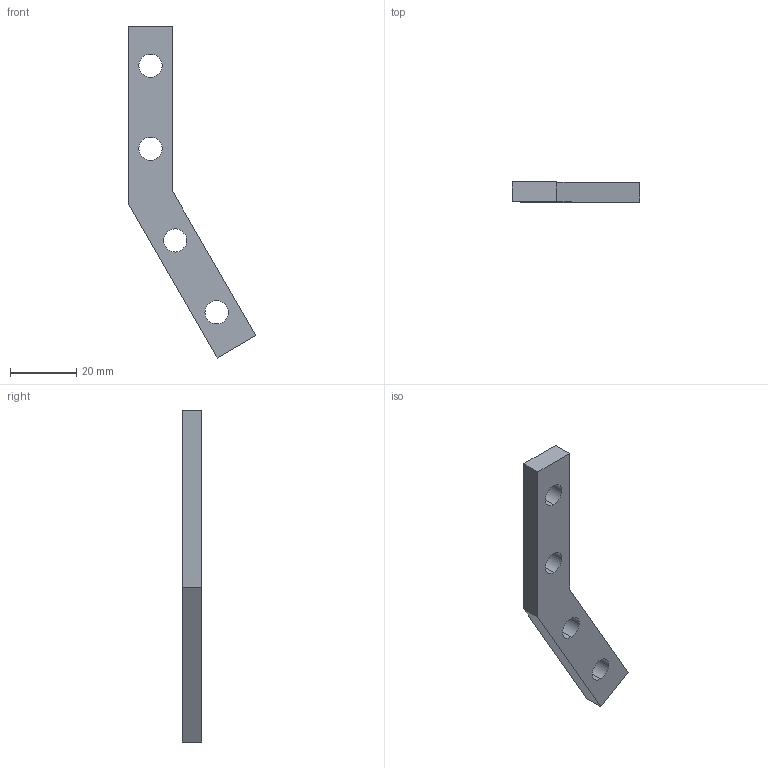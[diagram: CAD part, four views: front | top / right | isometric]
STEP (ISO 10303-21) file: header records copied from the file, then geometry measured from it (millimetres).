
FILE_DESCRIPTION (( 'STEP AP214' ), '1' );
FILE_NAME ('SF01023.step', '2024-12-03T16:29:36', ( '' ), ( '' ), 'SwSTEP 2.0', 'SolidWorks 2023', '' );
FILE_SCHEMA (( 'AUTOMOTIVE_DESIGN' ));
Length unit declared in the file: millimetre
Products named in the file (1): SF01023
Bounding box: 38.5 x 6 x 100.05 mm (x, y, z)
Volume: 7469.4 mm3; surface area: 4423 mm2
Topology: 1 solids, 1 shells, 16 faces, 42 edges, 28 vertices
Faces by surface type: cylinder 8, plane 8
Entity records: 541 total; most frequent: DIRECTION 92, CARTESIAN_POINT 87, ORIENTED_EDGE 84, EDGE_CURVE 42, AXIS2_PLACEMENT_3D 33, VERTEX_POINT 28, VECTOR 26, LINE 26
